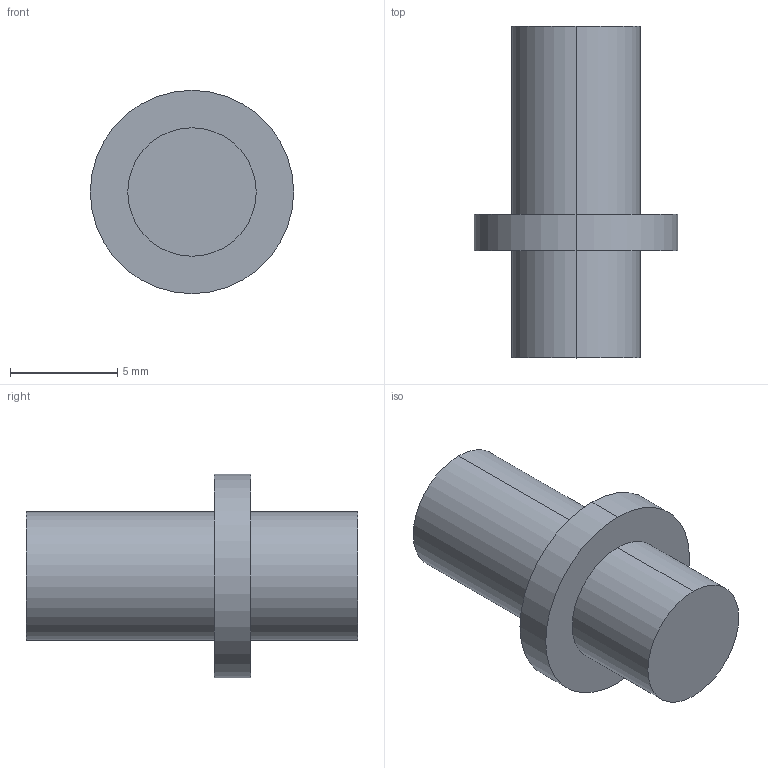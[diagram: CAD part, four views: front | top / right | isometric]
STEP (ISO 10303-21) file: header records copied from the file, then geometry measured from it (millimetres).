
FILE_DESCRIPTION (( 'STEP AP203' ), '1' );
FILE_NAME ('B12-06015.STEP', '2024-07-31T00:29:15', ( '' ), ( '' ), 'SwSTEP 2.0', 'SolidWorks 2021', '' );
FILE_SCHEMA (( 'CONFIG_CONTROL_DESIGN' ));
Length unit declared in the file: millimetre
Products named in the file (1): B12-06015
Bounding box: 9.5 x 15.5 x 9.5 mm (x, y, z)
Volume: 510.7 mm3; surface area: 452.6 mm2
Topology: 1 solids, 1 shells, 10 faces, 18 edges, 12 vertices
Faces by surface type: cylinder 6, plane 4
Entity records: 331 total; most frequent: DIRECTION 52, CARTESIAN_POINT 41, ORIENTED_EDGE 36, AXIS2_PLACEMENT_3D 23, EDGE_CURVE 18, EDGE_LOOP 12, CIRCLE 12, VERTEX_POINT 12
